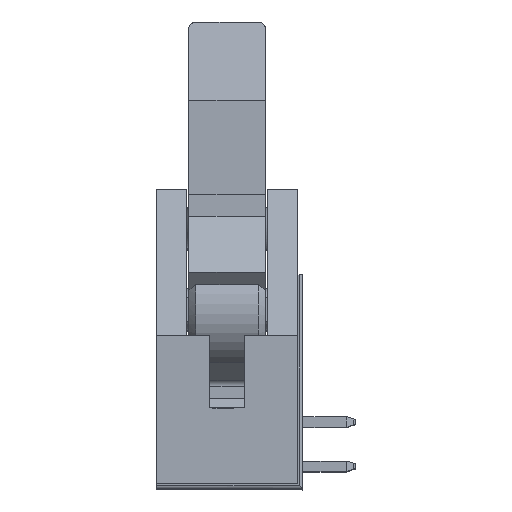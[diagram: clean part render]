
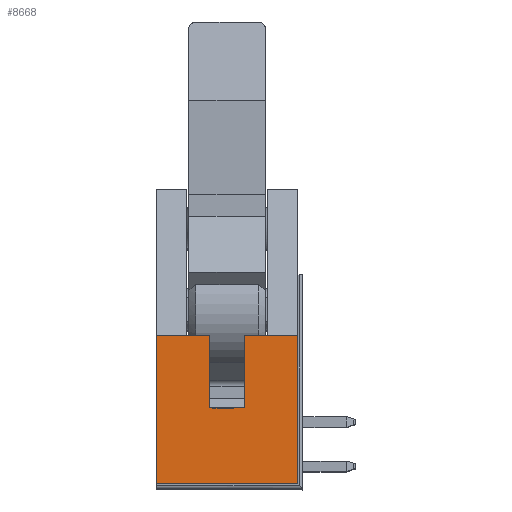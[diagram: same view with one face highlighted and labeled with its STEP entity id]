
A CAD part, top view. The second image highlights one B-rep face of the part: STEP entity #8668.
In plain terms, the highlighted planar face has unit normal (0, 0, 1).
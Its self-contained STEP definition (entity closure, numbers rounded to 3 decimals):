
#776=DIRECTION('',(0.,-1.,0.));
#777=VECTOR('',#776,4.14);
#778=CARTESIAN_POINT('',(-1.,1.24,37.08));
#779=LINE('474',#778,#777);
#780=DIRECTION('',(1.,0.,0.));
#781=VECTOR('',#780,2.);
#782=CARTESIAN_POINT('',(-1.,-2.9,37.08));
#783=LINE('475',#782,#781);
#784=DIRECTION('',(0.,-1.,0.));
#785=VECTOR('',#784,4.14);
#786=CARTESIAN_POINT('',(1.,1.24,37.08));
#787=LINE('476',#786,#785);
#788=DIRECTION('',(1.,0.,0.));
#789=VECTOR('',#788,1.325);
#790=CARTESIAN_POINT('',(1.,1.24,37.08));
#791=LINE('527',#790,#789);
#792=DIRECTION('',(1.,0.,0.));
#793=VECTOR('',#792,1.725);
#794=CARTESIAN_POINT('',(2.325,1.24,37.08));
#795=LINE('359',#794,#793);
#796=DIRECTION('',(0.,1.,0.));
#797=VECTOR('',#796,8.5);
#798=CARTESIAN_POINT('',(4.05,-7.26,37.08));
#799=LINE('121',#798,#797);
#800=DIRECTION('',(1.,0.,0.));
#801=VECTOR('',#800,8.1);
#802=CARTESIAN_POINT('',(-4.05,-7.26,37.08));
#803=LINE('34',#802,#801);
#804=DIRECTION('',(0.,-1.,0.));
#805=VECTOR('',#804,8.5);
#806=CARTESIAN_POINT('',(-4.05,1.24,37.08));
#807=LINE('120',#806,#805);
#808=DIRECTION('',(1.,0.,0.));
#809=VECTOR('',#808,1.725);
#810=CARTESIAN_POINT('',(-4.05,1.24,37.08));
#811=LINE('358',#810,#809);
#812=DIRECTION('',(1.,0.,0.));
#813=VECTOR('',#812,1.325);
#814=CARTESIAN_POINT('',(-2.325,1.24,37.08));
#815=LINE('526',#814,#813);
#5960=CARTESIAN_POINT('',(-4.05,-7.26,37.08));
#5961=CARTESIAN_POINT('',(4.05,-7.26,37.08));
#5962=VERTEX_POINT('',#5960);
#5963=VERTEX_POINT('',#5961);
#5964=CARTESIAN_POINT('',(-4.05,1.24,37.08));
#5966=VERTEX_POINT('',#5964);
#5998=CARTESIAN_POINT('',(4.05,1.24,37.08));
#5999=VERTEX_POINT('',#5998);
#6086=CARTESIAN_POINT('',(-2.325,1.24,37.08));
#6087=VERTEX_POINT('',#6086);
#6088=CARTESIAN_POINT('',(2.325,1.24,37.08));
#6089=VERTEX_POINT('',#6088);
#6112=CARTESIAN_POINT('',(-1.,1.24,37.08));
#6113=CARTESIAN_POINT('',(-1.,-2.9,37.08));
#6114=VERTEX_POINT('',#6112);
#6115=VERTEX_POINT('',#6113);
#6116=CARTESIAN_POINT('',(1.,-2.9,37.08));
#6117=VERTEX_POINT('',#6116);
#6118=CARTESIAN_POINT('',(1.,1.24,37.08));
#6119=VERTEX_POINT('',#6118);
#8644=CARTESIAN_POINT('',(0.,0.,37.08));
#8645=DIRECTION('',(0.,0.,1.));
#8646=DIRECTION('',(1.,0.,0.));
#8647=AXIS2_PLACEMENT_3D('',#8644,#8645,#8646);
#8648=PLANE('32',#8647);
#8650=ORIENTED_EDGE('474',*,*,#8649,.T.);
#8652=ORIENTED_EDGE('475',*,*,#8651,.T.);
#8654=ORIENTED_EDGE('476',*,*,#8653,.F.);
#8656=ORIENTED_EDGE('527',*,*,#8655,.T.);
#8657=ORIENTED_EDGE('359',*,*,#8637,.T.);
#8659=ORIENTED_EDGE('121',*,*,#8658,.F.);
#8661=ORIENTED_EDGE('34',*,*,#8660,.F.);
#8662=ORIENTED_EDGE('120',*,*,#8329,.F.);
#8663=ORIENTED_EDGE('358',*,*,#8623,.T.);
#8665=ORIENTED_EDGE('526',*,*,#8664,.T.);
#8666=EDGE_LOOP('32',(#8650,#8652,#8654,#8656,#8657,#8659,#8661,#8662,#8663,
#8665));
#8667=FACE_OUTER_BOUND('32',#8666,.F.);
#8668=ADVANCED_FACE('32',(#8667),#8648,.T.);
#8329=EDGE_CURVE('120',#5966,#5962,#807,.T.);
#8623=EDGE_CURVE('358',#5966,#6087,#811,.T.);
#8637=EDGE_CURVE('359',#6089,#5999,#795,.T.);
#8649=EDGE_CURVE('474',#6114,#6115,#779,.T.);
#8651=EDGE_CURVE('475',#6115,#6117,#783,.T.);
#8653=EDGE_CURVE('476',#6119,#6117,#787,.T.);
#8655=EDGE_CURVE('527',#6119,#6089,#791,.T.);
#8658=EDGE_CURVE('121',#5963,#5999,#799,.T.);
#8660=EDGE_CURVE('34',#5962,#5963,#803,.T.);
#8664=EDGE_CURVE('526',#6087,#6114,#815,.T.);
